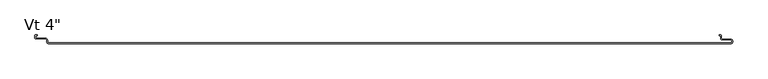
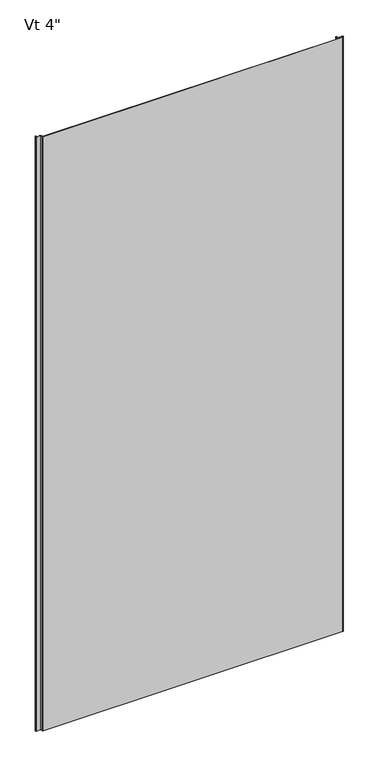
"""IFC4 building model written with IfcOpenShell, lengths in millimetres: plate geometry."""

from ifc_helpers import new_model, si_unit, frame, origin, place, context, project, spatial, polyline, circle_curve, source, transform, mapped, element, save
from ifc_brep_helpers import plane_surface, cylinder_surface, revolved_surface, advanced_brep


def plate_6aa7e515(model_context):
    return source(origin(), model_context, "Body", "AdvancedBrep", [
        advanced_brep(
        [(-572.4123937, -98.6223811, 2400.0), (-572.4123937, -96.3308685, 2400.0), (-576.3897391, -92.3535232, 2400.0), (-591.9862514, -92.3535232, 2400.0), (-592.5741086, -91.765666, 2400.0), (-592.5741086, -88.6941346, 2400.0), (-591.9862374, -88.1062635, 2400.0), (-589.6312064, -88.1062635, 2400.0), (-589.6312064, -87.1062599, 2400.0), (-591.9862419, -87.1062599, 2400.0), (-593.5741185, -88.6941364, 2400.0), (-593.5741185, -91.7656851, 2400.0), (-591.9862419, -93.3535616, 2400.0), (-576.3898159, -93.3535616, 2400.0), (-573.4125474, -96.3308302, 2400.0), (-573.4125474, -98.622714, 2400.0), (-570.4352789, -101.5999825, 2400.0), (574.5475652, -101.6, 2400.0), (577.5248337, -98.6227315, 2400.0), (577.5248337, -97.5806329, 2400.0), (574.5475652, -94.6033644, 2400.0), (560.3591801, -94.6033644, 2400.0), (558.7713036, -93.0154878, 2400.0), (558.7713036, -88.6950697, 2400.0), (557.1304042, -87.1066023, 2400.0), (554.7857432, -87.1066023, 2400.0), (554.7857432, -88.1060472, 2400.0), (557.1628599, -88.1060472, 2400.0), (557.7713971, -88.6950842, 2400.0), (557.7713971, -93.0153166, 2400.0), (560.3590971, -95.6030166, 2400.0), (574.5482568, -95.6030166, 2400.0), (576.5262182, -97.580978, 2400.0), (576.5262182, -98.62341, 2400.0), (574.550337, -100.5992912, 2400.0), (-570.4354837, -100.5992912, 2400.0), (-572.4123937, -98.6223811, 0.0), (-570.4354837, -100.5992912, 0.0), (574.550337, -100.5992912, 0.0), (576.5262182, -98.62341, 0.0), (576.5262182, -97.580978, 0.0), (574.5482568, -95.6030166, 0.0), (560.3590971, -95.6030166, 0.0), (557.7713971, -93.0153166, 0.0), (557.7713971, -88.6950842, 0.0), (557.1628599, -88.1060472, 0.0), (554.7857432, -88.1060472, 0.0), (554.7857432, -87.1066023, 0.0), (557.1304042, -87.1066023, 0.0), (558.7713036, -88.6950697, 0.0), (558.7713036, -93.0154878, 0.0), (560.3591801, -94.6033644, 0.0), (574.5475652, -94.6033644, 0.0), (577.5248337, -97.5806329, 0.0), (577.5248337, -98.6227315, 0.0), (574.5475652, -101.6, 0.0), (-570.4352789, -101.6, 0.0), (-573.4125474, -98.622714, 0.0), (-573.4125474, -96.3308302, 0.0), (-576.3898159, -93.3535616, 0.0), (-591.9862419, -93.3535616, 0.0), (-593.5741185, -91.7656851, 0.0), (-593.5741185, -88.6941364, 0.0), (-591.9862419, -87.1062599, 0.0), (-589.6312064, -87.1062599, 0.0), (-589.6312064, -88.1062635, 0.0), (-591.9862374, -88.1062635, 0.0), (-592.5741086, -88.6941346, 0.0), (-592.5741086, -91.765666, 0.0), (-591.9862514, -92.3535232, 0.0), (-576.3897391, -92.3535232, 0.0), (-572.4123937, -96.3308685, 0.0)],
        [
            (0, 1),
            (1, 2, circle_curve(frame((-576.3897391, -96.3308685, 2400.0), z_axis=(0.0, 0.0, 1.0), x_axis=(-1.0, 0.0, 0.0)), 3.9773454)),
            (2, 3),
            (3, 4, circle_curve(frame((-591.9862514, -91.765666, 2400.0), z_axis=(0.0, 0.0, -1.0), x_axis=(-1.0, 0.0, 0.0)), 0.5878572)),
            (4, 5),
            (5, 6, circle_curve(frame((-591.9862374, -88.6941346, 2400.0), z_axis=(0.0, 0.0, -1.0), x_axis=(-1.0, 0.0, 0.0)), 0.5878711)),
            (6, 7),
            (7, 8),
            (8, 9),
            (9, 10, circle_curve(frame((-591.9862419, -88.6941364, 2400.0), z_axis=(0.0, 0.0, 1.0), x_axis=(-1.0, 0.0, 0.0)), 1.5878765)),
            (10, 11),
            (11, 12, circle_curve(frame((-591.9862419, -91.7656851, 2400.0), z_axis=(0.0, 0.0, 1.0), x_axis=(-1.0, 0.0, 0.0)), 1.5878765)),
            (12, 13),
            (13, 14, circle_curve(frame((-576.3898159, -96.3308302, 2400.0), z_axis=(0.0, 0.0, -1.0), x_axis=(-1.0, 0.0, 0.0)), 2.9772685)),
            (14, 15),
            (15, 16, circle_curve(frame((-570.4352789, -98.622714, 2400.0), z_axis=(0.0, 0.0, 1.0), x_axis=(-1.0, 0.0, 0.0)), 2.9772685)),
            (16, 17),
            (17, 18, circle_curve(frame((574.5475652, -98.6227315, 2400.0), z_axis=(0.0, 0.0, 1.0), x_axis=(-1.0, 0.0, 0.0)), 2.9772685)),
            (18, 19),
            (19, 20, circle_curve(frame((574.5475652, -97.5806329, 2400.0), z_axis=(0.0, 0.0, 1.0), x_axis=(-1.0, 0.0, 0.0)), 2.9772685)),
            (20, 21),
            (21, 22, circle_curve(frame((560.3591801, -93.0154878, 2400.0), z_axis=(0.0, 0.0, -1.0), x_axis=(-1.0, 0.0, 0.0)), 1.5878765)),
            (22, 23),
            (23, 24, circle_curve(frame((557.1819985, -88.6950697, 2400.0), z_axis=(0.0, 0.0, 1.0), x_axis=(-1.0, 0.0, 0.0)), 1.5893051)),
            (24, 25),
            (25, 26),
            (26, 27),
            (27, 28, circle_curve(frame((557.1820477, -88.6950842, 2400.0), z_axis=(0.0, 0.0, -1.0), x_axis=(-1.0, 0.0, 0.0)), 0.5893495)),
            (28, 29),
            (29, 30, circle_curve(frame((560.3590971, -93.0153166, 2400.0), z_axis=(0.0, 0.0, 1.0), x_axis=(-1.0, 0.0, 0.0)), 2.5877)),
            (30, 31),
            (31, 32, circle_curve(frame((574.5482568, -97.580978, 2400.0), z_axis=(0.0, 0.0, -1.0), x_axis=(-1.0, 0.0, 0.0)), 1.9779614)),
            (32, 33),
            (33, 34, circle_curve(frame((574.550337, -98.62341, 2400.0), z_axis=(0.0, 0.0, -1.0), x_axis=(-1.0, 0.0, 0.0)), 1.9758812)),
            (34, 35),
            (35, 0, circle_curve(frame((-570.4354837, -98.6223811, 2400.0), z_axis=(0.0, 0.0, -1.0), x_axis=(-1.0, 0.0, 0.0)), 1.9769101)),
            (36, 37, circle_curve(frame((-570.4354837, -98.6223811, 0.0), z_axis=(0.0, 0.0, 1.0), x_axis=(-1.0, 0.0, 0.0)), 1.9769101)),
            (37, 38),
            (38, 39, circle_curve(frame((574.550337, -98.62341, 0.0), z_axis=(0.0, 0.0, 1.0), x_axis=(-1.0, 0.0, 0.0)), 1.9758812)),
            (39, 40),
            (40, 41, circle_curve(frame((574.5482568, -97.580978, 0.0), z_axis=(0.0, 0.0, 1.0), x_axis=(-1.0, 0.0, 0.0)), 1.9779614)),
            (41, 42),
            (42, 43, circle_curve(frame((560.3590971, -93.0153166, 0.0), z_axis=(0.0, 0.0, -1.0), x_axis=(-1.0, 0.0, 0.0)), 2.5877)),
            (43, 44),
            (44, 45, circle_curve(frame((557.1820477, -88.6950842, 0.0), z_axis=(0.0, 0.0, 1.0), x_axis=(-1.0, 0.0, 0.0)), 0.5893495)),
            (45, 46),
            (46, 47),
            (47, 48),
            (48, 49, circle_curve(frame((557.1819985, -88.6950697, 0.0), z_axis=(0.0, 0.0, -1.0), x_axis=(-1.0, 0.0, 0.0)), 1.5893051)),
            (49, 50),
            (50, 51, circle_curve(frame((560.3591801, -93.0154878, 0.0), z_axis=(0.0, 0.0, 1.0), x_axis=(-1.0, 0.0, 0.0)), 1.5878765)),
            (51, 52),
            (52, 53, circle_curve(frame((574.5475652, -97.5806329, 0.0), z_axis=(0.0, 0.0, -1.0), x_axis=(-1.0, 0.0, 0.0)), 2.9772685)),
            (53, 54),
            (54, 55, circle_curve(frame((574.5475652, -98.6227315, 0.0), z_axis=(0.0, 0.0, -1.0), x_axis=(-1.0, 0.0, 0.0)), 2.9772685)),
            (55, 56),
            (56, 57, circle_curve(frame((-570.4352789, -98.622714, 0.0), z_axis=(0.0, 0.0, -1.0), x_axis=(-1.0, 0.0, 0.0)), 2.9772685)),
            (57, 58),
            (58, 59, circle_curve(frame((-576.3898159, -96.3308302, 0.0), z_axis=(0.0, 0.0, 1.0), x_axis=(-1.0, 0.0, 0.0)), 2.9772685)),
            (59, 60),
            (60, 61, circle_curve(frame((-591.9862419, -91.7656851, 0.0), z_axis=(0.0, 0.0, -1.0), x_axis=(-1.0, 0.0, 0.0)), 1.5878765)),
            (61, 62),
            (62, 63, circle_curve(frame((-591.9862419, -88.6941364, 0.0), z_axis=(0.0, 0.0, -1.0), x_axis=(-1.0, 0.0, 0.0)), 1.5878765)),
            (63, 64),
            (64, 65),
            (65, 66),
            (66, 67, circle_curve(frame((-591.9862374, -88.6941346, 0.0), z_axis=(0.0, 0.0, 1.0), x_axis=(-1.0, 0.0, 0.0)), 0.5878711)),
            (67, 68),
            (68, 69, circle_curve(frame((-591.9862514, -91.765666, 0.0), z_axis=(0.0, 0.0, 1.0), x_axis=(-1.0, 0.0, 0.0)), 0.5878572)),
            (69, 70),
            (70, 71, circle_curve(frame((-576.3897391, -96.3308685, 0.0), z_axis=(0.0, 0.0, -1.0), x_axis=(-1.0, 0.0, 0.0)), 3.9773454)),
            (71, 36),
            (23, 49),
            (48, 24),
            (22, 50),
            (21, 51),
            (20, 52),
            (19, 53),
            (17, 55),
            (54, 18),
            (32, 40),
            (39, 33),
            (38, 34),
            (16, 56),
            (37, 35),
            (36, 0),
            (71, 1),
            (70, 2),
            (69, 3),
            (4, 68),
            (67, 5),
            (66, 6),
            (65, 7),
            (64, 8),
            (63, 9),
            (62, 10),
            (61, 11),
            (60, 12),
            (59, 13),
            (58, 14),
            (57, 15),
            (31, 41),
            (30, 42),
            (29, 43),
            (28, 44),
            (27, 45),
            (26, 46),
            (25, 47),
        ],
        [
            plane_surface(frame((0.0, -101.6, 2400.0), z_axis=(0.0, 0.0, 1.0), x_axis=(0.0, -1.0, 0.0))),
            plane_surface(frame((0.0, -101.6, 0.0), z_axis=(0.0, 0.0, -1.0), x_axis=(0.0, -1.0, 0.0))),
            cylinder_surface(frame((557.1819985, -88.6950697, 2400.0), z_axis=(0.0, 0.0, 1.0), x_axis=(-1.0, 0.0, 0.0)), 1.5893051),
            plane_surface(frame((558.7713036, -88.6950697, 2400.0), z_axis=(1.0, 0.0, 0.0), x_axis=(0.0, 0.0, -1.0))),
            revolved_surface(polyline([(558.7713036, -93.0154878, 0.0), (558.7713036, -93.0154878, 2400.0)]), (560.3591801, -93.0154878, 2400.0), (0.0, 0.0, -1.0)),
            plane_surface(frame((560.3591801, -94.6033644, 2400.0), z_axis=(0.0, 1.0, 0.0), x_axis=(0.0, 0.0, -1.0))),
            cylinder_surface(frame((574.5475652, -97.5806329, 2400.0), z_axis=(0.0, 0.0, 1.0), x_axis=(-1.0, 0.0, 0.0)), 2.9772685),
            cylinder_surface(frame((574.5475652, -98.6227315, 2400.0), z_axis=(0.0, 0.0, 1.0), x_axis=(-1.0, 0.0, 0.0)), 2.9772685),
            plane_surface(frame((576.5262182, -98.62341, 2400.0), z_axis=(-1.0, 0.0, 0.0), x_axis=(0.0, 0.0, -1.0))),
            plane_surface(frame((577.5248337, -97.5806329, 2400.0), z_axis=(1.0, 0.0, 0.0), x_axis=(0.0, 0.0, -1.0))),
            revolved_surface(polyline([(572.5744558, -98.62341, 0.0), (572.5744558, -98.62341, 2400.0)]), (574.550337, -98.62341, 2400.0), (0.0, 0.0, -1.0)),
            plane_surface(frame((574.5475652, -101.6, 2400.0), z_axis=(0.0, -1.0, 0.0), x_axis=(0.0, 0.0, -1.0))),
            plane_surface(frame((-570.4354837, -100.5992912, 2400.0), z_axis=(0.0, 1.0, 0.0), x_axis=(0.0, 0.0, -1.0))),
            revolved_surface(polyline([(-572.4123938, -98.6223811, 0.0), (-572.4123938, -98.6223811, 2400.0)]), (-570.4354837, -98.6223811, 2400.0), (0.0, 0.0, -1.0)),
            plane_surface(frame((-572.4123937, -96.3308685, 2400.0), z_axis=(1.0, 0.0, 0.0), x_axis=(0.0, 0.0, -1.0))),
            cylinder_surface(frame((-576.3897391, -96.3308685, 2400.0), z_axis=(0.0, 0.0, 1.0), x_axis=(-1.0, 0.0, 0.0)), 3.9773454),
            plane_surface(frame((-591.9862514, -92.3535232, 2400.0), z_axis=(0.0, 1.0, 0.0), x_axis=(0.0, 0.0, -1.0))),
            plane_surface(frame((-592.5741086, -88.6941346, 2400.0), z_axis=(1.0, 0.0, 0.0), x_axis=(0.0, 0.0, -1.0))),
            revolved_surface(polyline([(-592.5741085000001, -88.6941346, 0.0), (-592.5741085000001, -88.6941346, 2400.0)]), (-591.9862374, -88.6941346, 2400.0), (0.0, 0.0, -1.0)),
            plane_surface(frame((-589.6312064, -88.1062635, 2400.0), z_axis=(0.0, -1.0, 0.0), x_axis=(0.0, 0.0, -1.0))),
            plane_surface(frame((-589.6312064, -87.1062599, 2400.0), z_axis=(1.0, 0.0, 0.0), x_axis=(0.0, 0.0, -1.0))),
            plane_surface(frame((-591.9862419, -87.1062599, 2400.0), z_axis=(0.0, 1.0, 0.0), x_axis=(0.0, 0.0, -1.0))),
            cylinder_surface(frame((-591.9862419, -88.6941364, 2400.0), z_axis=(0.0, 0.0, 1.0), x_axis=(-1.0, 0.0, 0.0)), 1.5878765),
            plane_surface(frame((-593.5741185, -91.7656851, 2400.0), z_axis=(-1.0, 0.0, 0.0), x_axis=(0.0, 0.0, -1.0))),
            cylinder_surface(frame((-591.9862419, -91.7656851, 2400.0), z_axis=(0.0, 0.0, 1.0), x_axis=(-1.0, 0.0, 0.0)), 1.5878765),
            plane_surface(frame((-576.3898159, -93.3535616, 2400.0), z_axis=(0.0, -1.0, 0.0), x_axis=(0.0, 0.0, -1.0))),
            revolved_surface(polyline([(-579.3670844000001, -96.3308302, 0.0), (-579.3670844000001, -96.3308302, 2400.0)]), (-576.3898159, -96.3308302, 2400.0), (0.0, 0.0, -1.0)),
            plane_surface(frame((-573.4125474, -98.622714, 2400.0), z_axis=(-1.0, 0.0, 0.0), x_axis=(0.0, 0.0, -1.0))),
            cylinder_surface(frame((-570.4352789, -98.622714, 2400.0), z_axis=(0.0, 0.0, 1.0), x_axis=(-1.0, 0.0, 0.0)), 2.9772685),
            revolved_surface(polyline([(-592.5741086, -91.765666, 0.0), (-592.5741086, -91.765666, 2400.0)]), (-591.9862514, -91.765666, 2400.0), (0.0, 0.0, -1.0)),
            revolved_surface(polyline([(572.5702954, -97.580978, 0.0), (572.5702954, -97.580978, 2400.0)]), (574.5482568, -97.580978, 2400.0), (0.0, 0.0, -1.0)),
            plane_surface(frame((574.5482568, -95.6030166, 2400.0), z_axis=(0.0, -1.0, 0.0), x_axis=(0.0, 0.0, -1.0))),
            cylinder_surface(frame((560.3590971, -93.0153166, 2400.0), z_axis=(0.0, 0.0, 1.0), x_axis=(-1.0, 0.0, 0.0)), 2.5877),
            plane_surface(frame((557.7713971, -93.0153166, 2400.0), z_axis=(-1.0, 0.0, 0.0), x_axis=(0.0, 0.0, -1.0))),
            revolved_surface(polyline([(556.5926982, -88.6950842, 0.0), (556.5926982, -88.6950842, 2400.0)]), (557.1820477, -88.6950842, 2400.0), (0.0, 0.0, -1.0)),
            plane_surface(frame((557.1628599, -88.1060472, 2400.0), z_axis=(0.0, -1.0, 0.0), x_axis=(0.0, 0.0, -1.0))),
            plane_surface(frame((554.7857432, -88.1060472, 2400.0), z_axis=(-1.0, 0.0, 0.0), x_axis=(0.0, 0.0, -1.0))),
            plane_surface(frame((554.7857432, -87.1066023, 2400.0), z_axis=(0.0, 1.0, 0.0), x_axis=(0.0, 0.0, -1.0))),
        ],
        [
            (0, [[1, 2, 3, 4, 5, 6, 7, 8, 9, 10, 11, 12, 13, 14, 15, 16, 17, 18, 19, 20, 21, 22, 23, 24, 25, 26, 27, 28, 29, 30, 31, 32, 33, 34, 35, 36]]),
            (1, [[37, 38, 39, 40, 41, 42, 43, 44, 45, 46, 47, 48, 49, 50, 51, 52, 53, 54, 55, 56, 57, 58, 59, 60, 61, 62, 63, 64, 65, 66, 67, 68, 69, 70, 71, 72]]),
            (2, [[73, -49, 74, -24]]),
            (3, [[75, -50, -73, -23]]),
            (4, [[76, -51, -75, -22]]),
            (5, [[77, -52, -76, -21]]),
            (6, [[78, -53, -77, -20]]),
            (7, [[79, -55, 80, -18]]),
            (8, [[81, -40, 82, -33]]),
            (9, [[-80, -54, -78, -19]]),
            (10, [[-82, -39, 83, -34]]),
            (11, [[84, -56, -79, -17]]),
            (12, [[-83, -38, 85, -35]]),
            (13, [[-85, -37, 86, -36]]),
            (14, [[-86, -72, 87, -1]]),
            (15, [[-87, -71, 88, -2]]),
            (16, [[-88, -70, 89, -3]]),
            (17, [[90, -68, 91, -5]]),
            (18, [[-91, -67, 92, -6]]),
            (19, [[-92, -66, 93, -7]]),
            (20, [[-93, -65, 94, -8]]),
            (21, [[-94, -64, 95, -9]]),
            (22, [[-95, -63, 96, -10]]),
            (23, [[-96, -62, 97, -11]]),
            (24, [[-97, -61, 98, -12]]),
            (25, [[-98, -60, 99, -13]]),
            (26, [[-99, -59, 100, -14]]),
            (27, [[-100, -58, 101, -15]]),
            (28, [[-101, -57, -84, -16]]),
            (29, [[-89, -69, -90, -4]]),
            (30, [[102, -41, -81, -32]]),
            (31, [[103, -42, -102, -31]]),
            (32, [[104, -43, -103, -30]]),
            (33, [[105, -44, -104, -29]]),
            (34, [[106, -45, -105, -28]]),
            (35, [[107, -46, -106, -27]]),
            (36, [[108, -47, -107, -26]]),
            (37, [[-74, -48, -108, -25]]),
        ],
    ),
    ])


if __name__ == "__main__":
    model = new_model("IFC4")
    model_context = context("Model", 3, world=origin())
    ifc_project = project(units=[si_unit("LENGTHUNIT", "METRE", prefix="MILLI")], contexts=[model_context])
    site = spatial("IfcSite", under=ifc_project)
    building = spatial("IfcBuilding", under=site)
    placement = place(None, origin())
    plate_shape = plate_6aa7e515(model_context)
    element("IfcPlate", 1, ObjectType="KIP-SLI-FLI-R19-CP-Vt-FL_SL : Vt 4\"", at=placement, inside=building, context=model_context, shape_type="MappedRepresentation", body=[
        mapped(plate_shape, transform((0.0, 0.0, 0.0), x_axis=(1.0, 0.0, 0.0), y_axis=(0.0, 1.0, 0.0), z_axis=(0.0, 0.0, 1.0))),
    ])
    save(model, "model.ifc")
